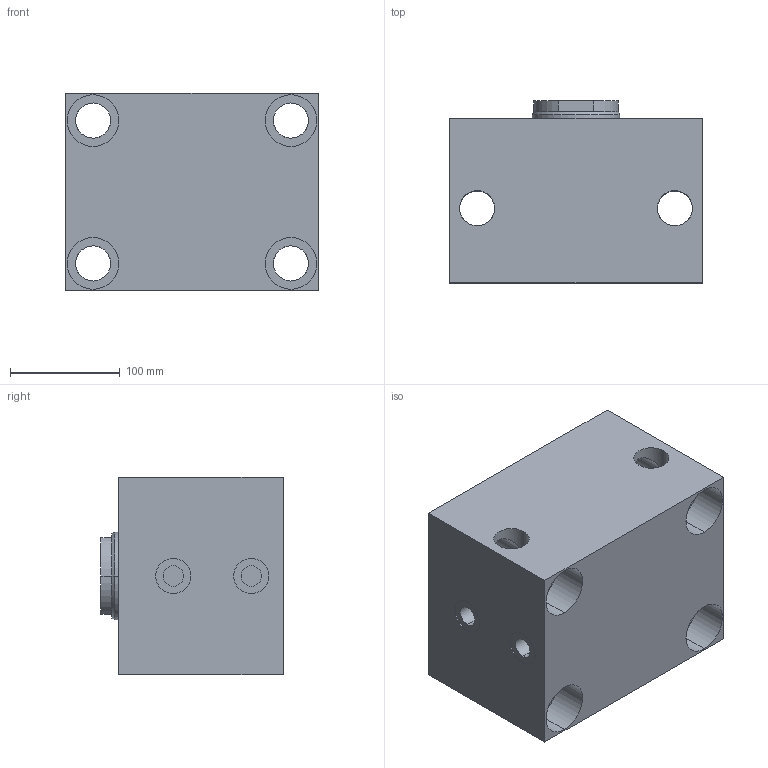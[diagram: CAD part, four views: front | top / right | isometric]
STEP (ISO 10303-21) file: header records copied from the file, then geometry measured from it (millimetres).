
FILE_DESCRIPTION (( 'STEP AP203' ), '1' );
FILE_NAME ('GERMA_Blockzylinder_600-125-040.STEP', '2015-10-09T16:46:00', ( '' ), ( '' ), 'SwSTEP 2.0', 'SolidWorks 2015', '' );
FILE_SCHEMA (( 'CONFIG_CONTROL_DESIGN' ));
Length unit declared in the file: millimetre
Products named in the file (3): GH-600-125_GH-600-125-040; Kolben 60x-125_Kolben DU.125-Hub40-IG; GERMA_Blockzylinder_600-125-040
Assembly tree (2 placements, depth 2):
  GERMA_Blockzylinder_600-125-040
    GH-600-125_GH-600-125-040
    Kolben 60x-125_Kolben DU.125-Hub40-IG
Bounding box: 230 x 166 x 180 mm (x, y, z)
Volume: 4931961.2 mm3; surface area: 421431.9 mm2
Topology: 2 solids, 2 shells, 117 faces, 268 edges, 162 vertices
Faces by surface type: cylinder 73, plane 30, cone 14
Entity records: 3602 total; most frequent: CARTESIAN_POINT 642, DIRECTION 599, ORIENTED_EDGE 524, EDGE_CURVE 262, AXIS2_PLACEMENT_3D 247, VERTEX_POINT 162, EDGE_LOOP 150, CIRCLE 125
